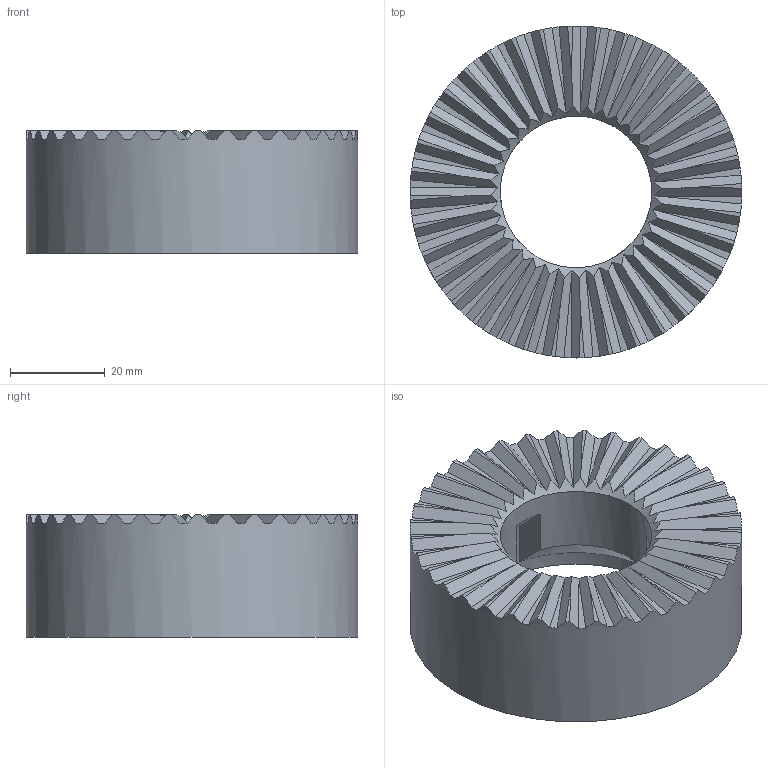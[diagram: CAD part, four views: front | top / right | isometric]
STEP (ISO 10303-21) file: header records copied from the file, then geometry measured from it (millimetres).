
FILE_DESCRIPTION(/* description */ (''),/* implementation_level */ '2;1');
FILE_NAME(/* name */ '/Users/rostapetr/Downloads/Base-part.step',/* time_stamp */ '2022-04-16T22:20:09+02:00',/* author */ (''),/* organization */ (''),/* preprocessor_version */ 'ST-DEVELOPER v18.1',/* originating_system */ 'Autodesk Translation Framework v10.14.0.1471',/* authorisation */ '');
FILE_SCHEMA (('AUTOMOTIVE_DESIGN { 1 0 10303 214 3 1 1 }'));
Length unit declared in the file: millimetre
Products named in the file (1): Base-part (1)
Bounding box: 70 x 70 x 25.9 mm (x, y, z)
Volume: 69338.4 mm3; surface area: 15075.6 mm2
Topology: 1 solids, 1 shells, 161 faces, 552 edges, 392 vertices
Faces by surface type: plane 151, cone 7, cylinder 3
Full cylindrical faces by diameter (mm): 32 x1, 45.5 x1, 70 x1
Entity records: 5992 total; most frequent: CARTESIAN_POINT 1420, ORIENTED_EDGE 1104, DIRECTION 882, EDGE_CURVE 552, VERTEX_POINT 392, AXIS2_PLACEMENT_3D 325, LINE 232, VECTOR 232
